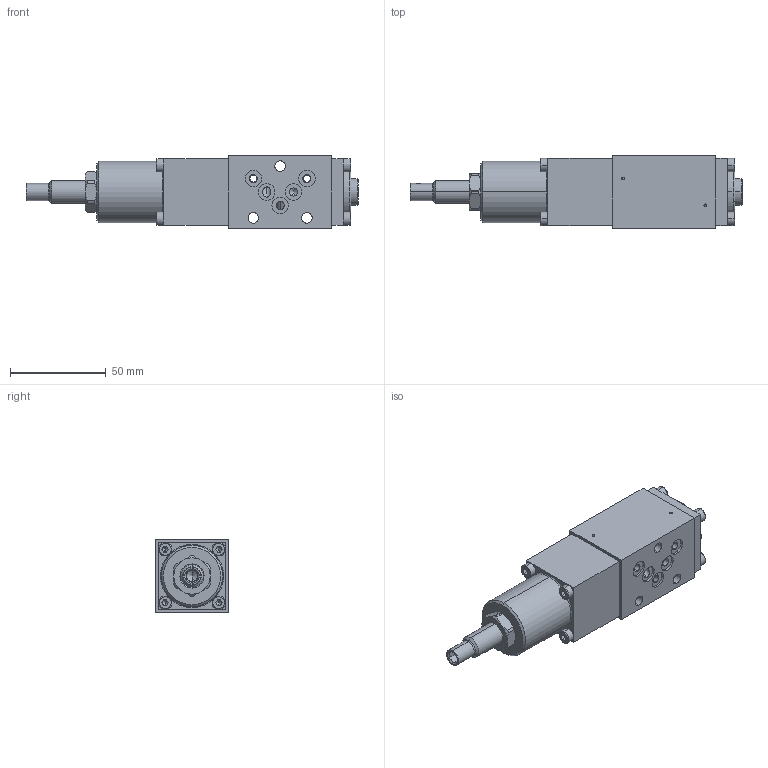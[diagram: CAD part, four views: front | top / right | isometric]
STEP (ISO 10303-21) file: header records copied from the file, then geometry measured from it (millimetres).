
FILE_DESCRIPTION (( 'STEP AP214' ), '1' );
FILE_NAME ('BDRVdB4.STEP', '2017-03-23T06:28:21', ( '' ), ( '' ), 'SwSTEP 2.0', 'SolidWorks 2016', '' );
FILE_SCHEMA (( 'AUTOMOTIVE_DESIGN' ));
Length unit declared in the file: millimetre
Products named in the file (1): BDRVdB4
Bounding box: 173.5 x 38 x 38 mm (x, y, z)
Volume: 157158.7 mm3; surface area: 32777.9 mm2
Topology: 3 solids, 17 shells, 504 faces, 1141 edges, 664 vertices
Faces by surface type: plane 196, cylinder 151, cone 111, torus 38, sphere 8
Entity records: 19749 total; most frequent: CARTESIAN_POINT 2918, DIRECTION 2519, ORIENTED_EDGE 2190, EDGE_CURVE 1095, AXIS2_PLACEMENT_3D 997, VERTEX_POINT 664, EDGE_LOOP 571, VECTOR 525
